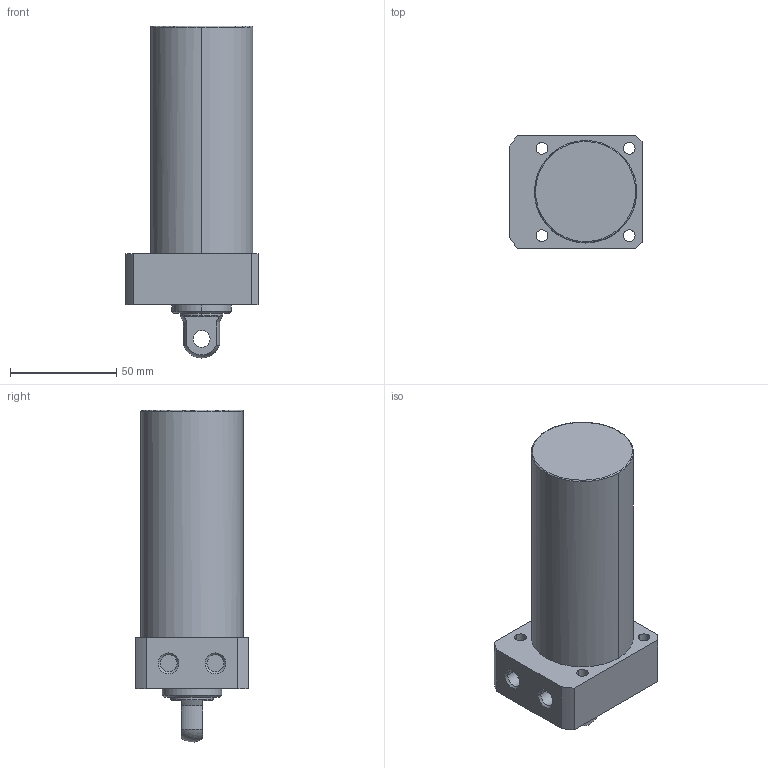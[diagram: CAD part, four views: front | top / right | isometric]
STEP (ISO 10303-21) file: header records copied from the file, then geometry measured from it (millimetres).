
FILE_DESCRIPTION((' '),'2;1');
FILE_NAME( 'TLLR-048CP-080.STEP.stp', '2025-10-24T16:34:39', (' '), ('--- Datakit www.datakit.com---'), ' Datakit CrossCadWare V2024.1 Dec 21 2023', 'Mastercam 2025', ' ');
FILE_SCHEMA(('AUTOMOTIVE_DESIGN { 1 0 10303 214 1 1 1 1 }'));
Length unit declared in the file: millimetre
Products named in the file (1): TLLR-048CP-080
Bounding box: 62 x 53 x 155.94 mm (x, y, z)
Volume: 273110.3 mm3; surface area: 31541.7 mm2
Topology: 1 solids, 1 shells, 57 faces, 164 edges, 116 vertices
Faces by surface type: cylinder 28, plane 18, cone 8, torus 2, sphere 1
Entity records: 2006 total; most frequent: DIRECTION 378, CARTESIAN_POINT 350, ORIENTED_EDGE 328, EDGE_CURVE 164, AXIS2_PLACEMENT_3D 160, VERTEX_POINT 116, CIRCLE 102, EDGE_LOOP 74
